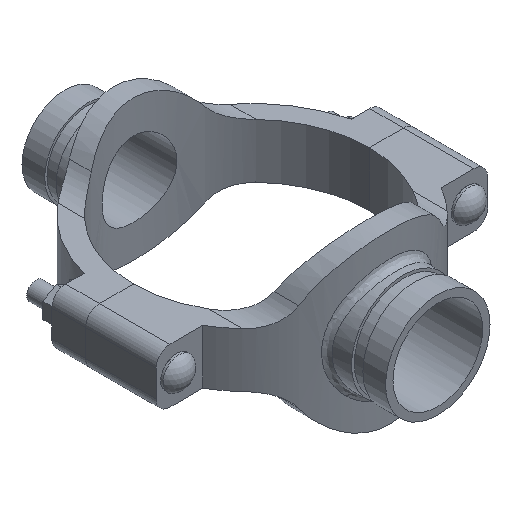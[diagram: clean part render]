
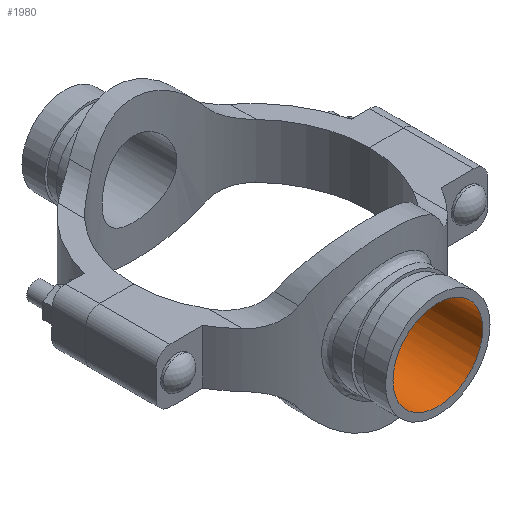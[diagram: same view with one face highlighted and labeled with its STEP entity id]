
A CAD part, isometric view. The second image highlights one B-rep face of the part: STEP entity #1980.
In plain terms, the highlighted cylindrical face has radius 31.356 mm (diameter 62.713 mm), a full revolution.
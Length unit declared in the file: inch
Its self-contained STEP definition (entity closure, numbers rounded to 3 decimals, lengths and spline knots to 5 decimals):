
#50=B_SPLINE_CURVE_WITH_KNOTS('',3,(#4024,#4025,#4026,#4027,#4028,#4029,
#4030,#4031,#4032,#4033,#4034,#4035,#4036,#4037,#4038,#4039,#4040,#4041,
#4042,#4043,#4044,#4045,#4046,#4047,#4048,#4049,#4050,#4051,#4052,#4053,
#4054,#4055,#4056,#4057,#4058,#4059,#4060,#4061,#4062,#4063,#4064,#4065,
#4066,#4067,#4068,#4069,#4070,#4071,#4072,#4073,#4074,#4075,#4076,#4077,
#4078,#4079,#4080,#4081,#4082,#4083,#4084,#4085,#4086,#4087,#4088,#4089),
 .UNSPECIFIED.,.T.,.F.,(4,2,2,2,2,2,2,2,2,2,2,2,2,2,2,2,2,2,2,2,2,2,2,2,
2,2,2,2,2,2,2,2,4),(0.,0.59737,1.19475,1.79212,
2.38949,2.98638,3.58327,4.18016,4.77705,
5.37394,5.97083,6.56772,7.16461,7.76199,
8.35936,8.95673,9.55411,10.15148,10.74885,
11.34623,11.9436,12.54049,13.13738,13.73427,
14.33116,14.92805,15.52494,16.12183,16.71872,
17.31609,17.91346,18.51084,19.10821),
 .UNSPECIFIED.);
#95=CYLINDRICAL_SURFACE('',#2217,1.2345);
#212=FACE_OUTER_BOUND('',#334,.T.);
#334=EDGE_LOOP('',(#1592,#1593,#1594,#1595));
#484=LINE('',#4023,#632);
#632=VECTOR('',#2682,1.2345);
#734=CIRCLE('',#2218,1.2345);
#899=VERTEX_POINT('',#4020);
#900=VERTEX_POINT('',#4022);
#1144=EDGE_CURVE('',#899,#899,#734,.T.);
#1145=EDGE_CURVE('',#899,#900,#484,.T.);
#1146=EDGE_CURVE('',#900,#900,#50,.T.);
#1592=ORIENTED_EDGE('',*,*,#1144,.F.);
#1593=ORIENTED_EDGE('',*,*,#1145,.T.);
#1594=ORIENTED_EDGE('',*,*,#1146,.F.);
#1595=ORIENTED_EDGE('',*,*,#1145,.F.);
#1980=ADVANCED_FACE('',(#212),#95,.F.);
#2217=AXIS2_PLACEMENT_3D('',#4019,#2678,#2679);
#2218=AXIS2_PLACEMENT_3D('',#4021,#2680,#2681);
#2678=DIRECTION('center_axis',(0.,-1.,0.));
#2679=DIRECTION('ref_axis',(-1.,0.,0.));
#2680=DIRECTION('center_axis',(0.,-1.,0.));
#2681=DIRECTION('ref_axis',(-1.,0.,0.));
#2682=DIRECTION('',(0.,-1.,0.));
#4019=CARTESIAN_POINT('Origin',(0.,5.13,0.));
#4020=CARTESIAN_POINT('',(1.2345,5.13,0.));
#4021=CARTESIAN_POINT('Origin',(0.,5.13,0.));
#4022=CARTESIAN_POINT('',(1.2345,3.00641,0.));
#4023=CARTESIAN_POINT('',(1.2345,5.13,0.));
#4024=CARTESIAN_POINT('Ctrl Pts',(1.2345,3.00641,0.));
#4025=CARTESIAN_POINT('Ctrl Pts',(1.2345,3.00641,-0.0784));
#4026=CARTESIAN_POINT('Ctrl Pts',(1.22691,3.00956,-0.15918));
#4027=CARTESIAN_POINT('Ctrl Pts',(1.19527,3.02227,-0.31933));
#4028=CARTESIAN_POINT('Ctrl Pts',(1.17123,3.03181,-0.3987));
#4029=CARTESIAN_POINT('Ctrl Pts',(1.10801,3.05548,-0.5505));
#4030=CARTESIAN_POINT('Ctrl Pts',(1.06879,3.0696,-0.62307));
#4031=CARTESIAN_POINT('Ctrl Pts',(0.97844,3.09958,-0.75708));
#4032=CARTESIAN_POINT('Ctrl Pts',(0.92731,3.11541,-0.81854));
#4033=CARTESIAN_POINT('Ctrl Pts',(0.81858,3.14573,-0.92727));
#4034=CARTESIAN_POINT('Ctrl Pts',(0.75715,3.16132,-0.97839));
#4035=CARTESIAN_POINT('Ctrl Pts',(0.62312,3.19044,-1.06876));
#4036=CARTESIAN_POINT('Ctrl Pts',(0.55052,3.20395,-1.10801));
#4037=CARTESIAN_POINT('Ctrl Pts',(0.39866,3.22637,-1.17125));
#4038=CARTESIAN_POINT('Ctrl Pts',(0.31926,3.23528,-1.19529));
#4039=CARTESIAN_POINT('Ctrl Pts',(0.15909,3.2471,-1.22692));
#4040=CARTESIAN_POINT('Ctrl Pts',(0.07833,3.25,-1.2345));
#4041=CARTESIAN_POINT('Ctrl Pts',(-0.07833,3.25,-1.2345));
#4042=CARTESIAN_POINT('Ctrl Pts',(-0.15909,3.2471,-1.22692));
#4043=CARTESIAN_POINT('Ctrl Pts',(-0.31926,3.23528,-1.19529));
#4044=CARTESIAN_POINT('Ctrl Pts',(-0.39866,3.22637,-1.17125));
#4045=CARTESIAN_POINT('Ctrl Pts',(-0.55052,3.20395,-1.10801));
#4046=CARTESIAN_POINT('Ctrl Pts',(-0.62312,3.19044,-1.06876));
#4047=CARTESIAN_POINT('Ctrl Pts',(-0.75715,3.16132,-0.97839));
#4048=CARTESIAN_POINT('Ctrl Pts',(-0.81858,3.14573,-0.92727));
#4049=CARTESIAN_POINT('Ctrl Pts',(-0.92731,3.11541,-0.81854));
#4050=CARTESIAN_POINT('Ctrl Pts',(-0.97844,3.09958,-0.75708));
#4051=CARTESIAN_POINT('Ctrl Pts',(-1.06879,3.0696,-0.62307));
#4052=CARTESIAN_POINT('Ctrl Pts',(-1.10801,3.05548,-0.5505));
#4053=CARTESIAN_POINT('Ctrl Pts',(-1.17123,3.03181,-0.3987));
#4054=CARTESIAN_POINT('Ctrl Pts',(-1.19527,3.02227,-0.31933));
#4055=CARTESIAN_POINT('Ctrl Pts',(-1.22691,3.00956,-0.15918));
#4056=CARTESIAN_POINT('Ctrl Pts',(-1.2345,3.00641,-0.0784));
#4057=CARTESIAN_POINT('Ctrl Pts',(-1.2345,3.00641,0.0784));
#4058=CARTESIAN_POINT('Ctrl Pts',(-1.22691,3.00956,0.15918));
#4059=CARTESIAN_POINT('Ctrl Pts',(-1.19527,3.02227,0.31933));
#4060=CARTESIAN_POINT('Ctrl Pts',(-1.17123,3.03181,0.3987));
#4061=CARTESIAN_POINT('Ctrl Pts',(-1.10801,3.05548,0.5505));
#4062=CARTESIAN_POINT('Ctrl Pts',(-1.06879,3.0696,0.62307));
#4063=CARTESIAN_POINT('Ctrl Pts',(-0.97844,3.09958,0.75708));
#4064=CARTESIAN_POINT('Ctrl Pts',(-0.92731,3.11541,0.81854));
#4065=CARTESIAN_POINT('Ctrl Pts',(-0.81858,3.14573,0.92727));
#4066=CARTESIAN_POINT('Ctrl Pts',(-0.75715,3.16132,0.97839));
#4067=CARTESIAN_POINT('Ctrl Pts',(-0.62312,3.19044,1.06876));
#4068=CARTESIAN_POINT('Ctrl Pts',(-0.55052,3.20395,1.10801));
#4069=CARTESIAN_POINT('Ctrl Pts',(-0.39866,3.22637,1.17125));
#4070=CARTESIAN_POINT('Ctrl Pts',(-0.31926,3.23528,1.19529));
#4071=CARTESIAN_POINT('Ctrl Pts',(-0.15909,3.2471,1.22692));
#4072=CARTESIAN_POINT('Ctrl Pts',(-0.07833,3.25,1.2345));
#4073=CARTESIAN_POINT('Ctrl Pts',(0.07833,3.25,1.2345));
#4074=CARTESIAN_POINT('Ctrl Pts',(0.15909,3.2471,1.22692));
#4075=CARTESIAN_POINT('Ctrl Pts',(0.31926,3.23528,1.19529));
#4076=CARTESIAN_POINT('Ctrl Pts',(0.39866,3.22637,1.17125));
#4077=CARTESIAN_POINT('Ctrl Pts',(0.55052,3.20395,1.10801));
#4078=CARTESIAN_POINT('Ctrl Pts',(0.62312,3.19044,1.06876));
#4079=CARTESIAN_POINT('Ctrl Pts',(0.75715,3.16132,0.97839));
#4080=CARTESIAN_POINT('Ctrl Pts',(0.81858,3.14573,0.92727));
#4081=CARTESIAN_POINT('Ctrl Pts',(0.92731,3.11541,0.81854));
#4082=CARTESIAN_POINT('Ctrl Pts',(0.97844,3.09958,0.75708));
#4083=CARTESIAN_POINT('Ctrl Pts',(1.06879,3.0696,0.62307));
#4084=CARTESIAN_POINT('Ctrl Pts',(1.10801,3.05548,0.5505));
#4085=CARTESIAN_POINT('Ctrl Pts',(1.17123,3.03181,0.3987));
#4086=CARTESIAN_POINT('Ctrl Pts',(1.19527,3.02227,0.31933));
#4087=CARTESIAN_POINT('Ctrl Pts',(1.22691,3.00956,0.15918));
#4088=CARTESIAN_POINT('Ctrl Pts',(1.2345,3.00641,0.0784));
#4089=CARTESIAN_POINT('Ctrl Pts',(1.2345,3.00641,0.));
